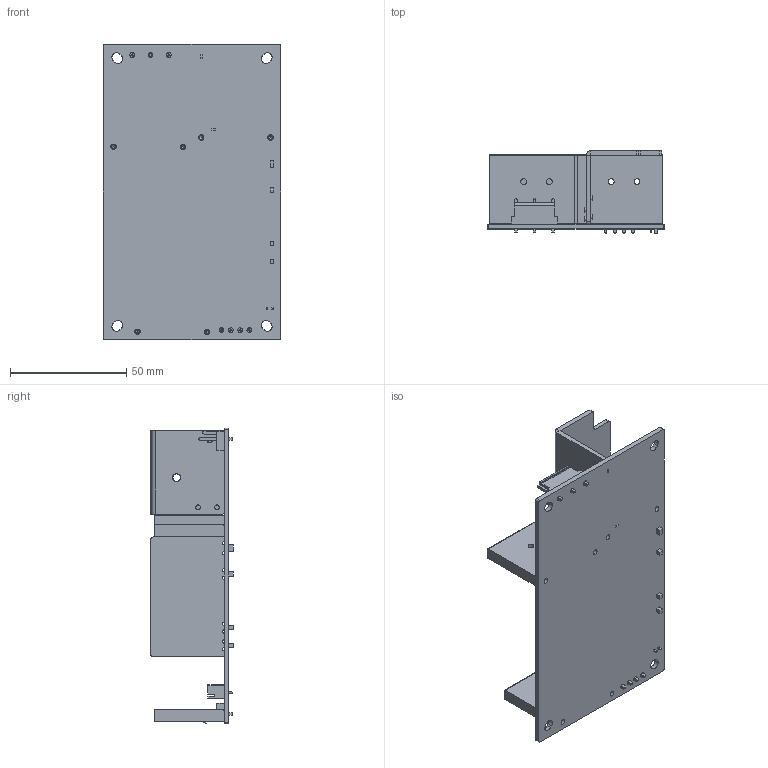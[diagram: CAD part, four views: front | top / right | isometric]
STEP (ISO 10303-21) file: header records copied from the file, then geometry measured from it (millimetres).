
FILE_DESCRIPTION((''),'2;1');
FILE_NAME('PJT-27V150WBNA_ASM','2016-12-29T',('warud'),(''),'PRO/ENGINEER BY PARAMETRIC TECHNOLOGY CORPORATION, 2010180','PRO/ENGINEER BY PARAMETRIC TECHNOLOGY CORPORATION, 2010180','');
FILE_SCHEMA(('CONFIG_CONTROL_DESIGN','SHAPE_APPEARANCE_LAYERS_GROUPS'));
Length unit declared in the file: millimetre
Products named in the file (16): PWB_MAIN; 3070953531_JST; 3071125231_JST; 3076507231_REMOTE; ADC-054; ASSY_ADC-054_ASM; 334748790000_A_BODY; 334748790000_ASM; ASSY_HS1_ASM; 334748810000; ASSY_HS2_ASM; ASSY_HS3_ASM; ASSY_HS4_ASM; ASSY_MAINBOARD_ASM; 326866480000; PJT-27V150WBNA_ASM
Assembly tree (17 placements, depth 5):
  PJT-27V150WBNA_ASM
    ASSY_MAINBOARD_ASM
      PWB_MAIN
      3070953531_JST
      3071125231_JST
      3076507231_REMOTE
      ASSY_ADC-054_ASM
        ADC-054
      ASSY_HS1_ASM
        334748790000_ASM
          334748790000_A_BODY
      ASSY_HS2_ASM
        334748810000
      ASSY_HS3_ASM
        334748810000
      ASSY_HS4_ASM
        334748810000
    326866480000
Bounding box: 76.2 x 35.5 x 127 mm (x, y, z)
Volume: 43653.8 mm3; surface area: 41350.6 mm2
Topology: 10 solids, 10 shells, 739 faces, 1906 edges, 1224 vertices
Faces by surface type: plane 568, cylinder 131, cone 40
Entity records: 23954 total; most frequent: CARTESIAN_POINT 3625, ORIENTED_EDGE 3516, DIRECTION 3438, EDGE_CURVE 1758, VECTOR 1532, LINE 1532, VERTEX_POINT 1140, AXIS2_PLACEMENT_3D 953
